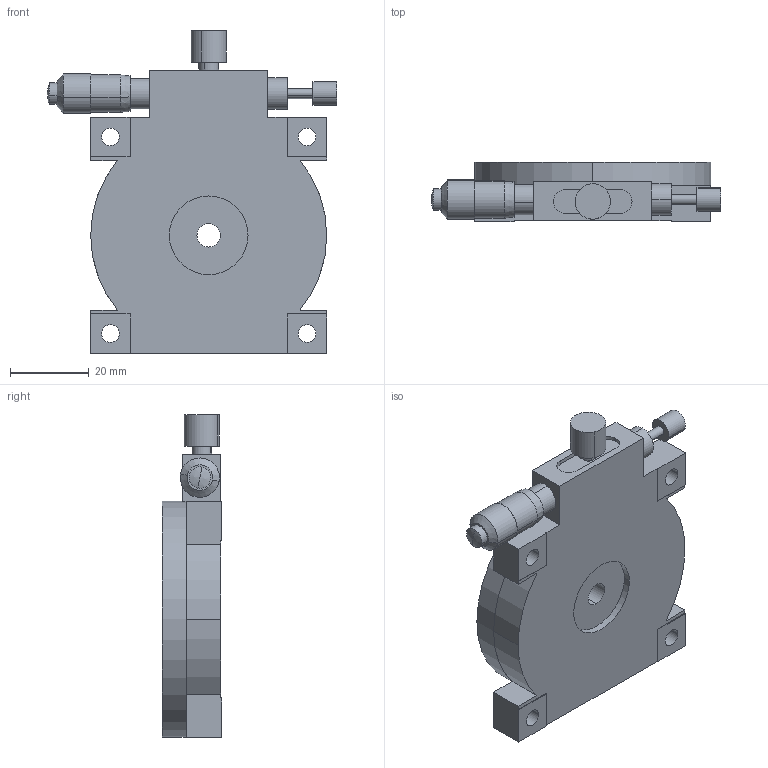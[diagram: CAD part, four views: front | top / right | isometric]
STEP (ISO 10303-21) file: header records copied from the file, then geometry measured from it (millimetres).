
FILE_DESCRIPTION (( 'STEP AP214' ), '1' );
FILE_NAME ('RS‐6011‐R.STEP', '2007-09-13T01:40:56', ( '' ), ( '' ), 'SwSTEP 2.0', 'SolidWorks 2007', '' );
FILE_SCHEMA (( 'AUTOMOTIVE_DESIGN' ));
Length unit declared in the file: millimetre
Products named in the file (3): RS6011R0‐1_ﾃﾞﾌｫﾙﾄ; RS‐6011‐R; RS6011R0‐2_ﾃﾞﾌｫﾙﾄ
Assembly tree (2 placements, depth 2):
  RS‐6011‐R
    RS6011R0‐1_ﾃﾞﾌｫﾙﾄ
    RS6011R0‐2_ﾃﾞﾌｫﾙﾄ
Bounding box: 73.5 x 15 x 82 mm (x, y, z)
Volume: 50063.8 mm3; surface area: 22491.3 mm2
Topology: 2 solids, 3 shells, 154 faces, 382 edges, 253 vertices
Faces by surface type: cylinder 88, plane 60, cone 4, sphere 2
Entity records: 4841 total; most frequent: DIRECTION 880, CARTESIAN_POINT 838, ORIENTED_EDGE 764, EDGE_CURVE 382, AXIS2_PLACEMENT_3D 343, VERTEX_POINT 253, EDGE_LOOP 213, VECTOR 194
